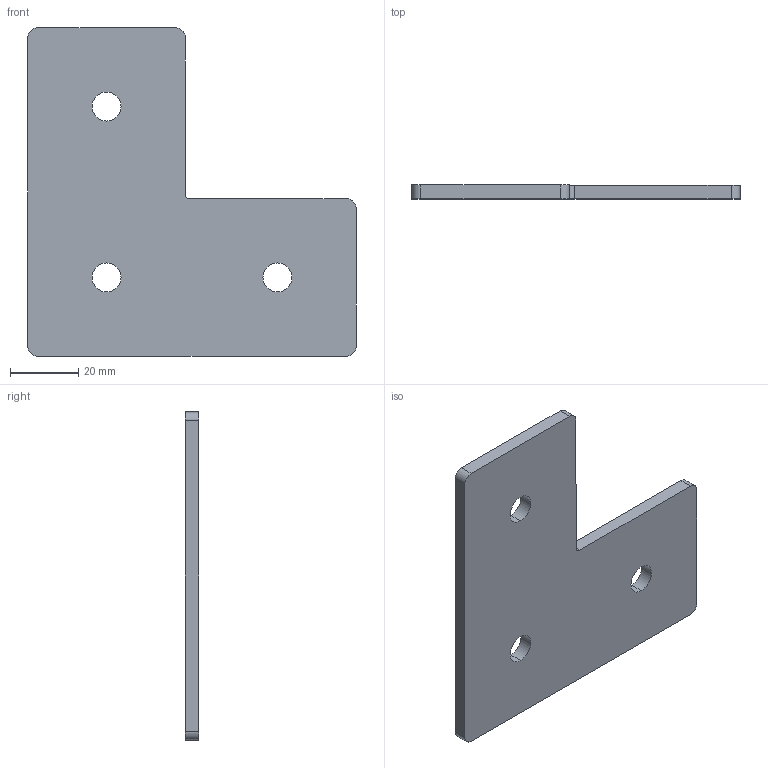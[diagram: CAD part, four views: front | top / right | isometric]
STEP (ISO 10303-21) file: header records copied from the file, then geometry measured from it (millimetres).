
FILE_DESCRIPTION (( 'STEP AP203' ), '1' );
FILE_NAME ('Ã-3-50.STEP', '2017-03-22T07:41:57', ( 'RosInstal-MKM' ), ( '' ), 'SwSTEP 2.0', 'SolidWorks 2014', '' );
FILE_SCHEMA (( 'CONFIG_CONTROL_DESIGN' ));
Length unit declared in the file: millimetre
Products named in the file (1): ﾃ-3-50
Bounding box: 96 x 4 x 96 mm (x, y, z)
Volume: 26156 mm3; surface area: 14909.5 mm2
Topology: 1 solids, 1 shells, 20 faces, 54 edges, 36 vertices
Faces by surface type: cylinder 12, plane 8
Entity records: 731 total; most frequent: DIRECTION 120, CARTESIAN_POINT 111, ORIENTED_EDGE 108, EDGE_CURVE 54, AXIS2_PLACEMENT_3D 45, VERTEX_POINT 36, VECTOR 30, LINE 30
